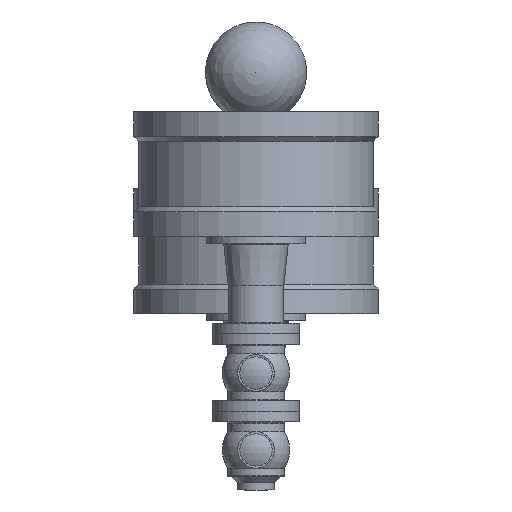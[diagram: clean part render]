
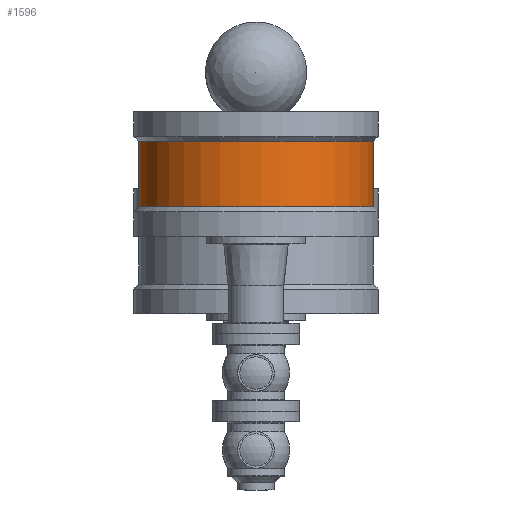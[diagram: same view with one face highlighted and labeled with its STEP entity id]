
A CAD part, front view. The second image highlights one B-rep face of the part: STEP entity #1596.
In plain terms, the highlighted cylindrical face has radius 167 mm (diameter 334 mm), a full revolution.
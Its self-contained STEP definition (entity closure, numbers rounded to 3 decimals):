
#220=LINE('',#2876,#263);
#263=VECTOR('',#2255,167.);
#304=CYLINDRICAL_SURFACE('',#1881,167.);
#354=FACE_OUTER_BOUND('',#455,.T.);
#455=EDGE_LOOP('',(#1195,#1196,#1197,#1198,#1199,#1200));
#593=CIRCLE('',#1879,167.);
#594=CIRCLE('',#1880,167.);
#595=CIRCLE('',#1882,167.);
#596=CIRCLE('',#1883,167.);
#759=VERTEX_POINT('',#2866);
#760=VERTEX_POINT('',#2867);
#761=VERTEX_POINT('',#2872);
#762=VERTEX_POINT('',#2873);
#931=EDGE_CURVE('',#759,#760,#593,.T.);
#932=EDGE_CURVE('',#760,#759,#594,.T.);
#934=EDGE_CURVE('',#761,#762,#595,.T.);
#935=EDGE_CURVE('',#762,#761,#596,.T.);
#936=EDGE_CURVE('',#762,#760,#220,.T.);
#1195=ORIENTED_EDGE('',*,*,#934,.F.);
#1196=ORIENTED_EDGE('',*,*,#935,.F.);
#1197=ORIENTED_EDGE('',*,*,#936,.T.);
#1198=ORIENTED_EDGE('',*,*,#932,.T.);
#1199=ORIENTED_EDGE('',*,*,#931,.T.);
#1200=ORIENTED_EDGE('',*,*,#936,.F.);
#1596=ADVANCED_FACE('',(#354),#304,.T.);
#1879=AXIS2_PLACEMENT_3D('',#2868,#2244,#2245);
#1880=AXIS2_PLACEMENT_3D('',#2869,#2246,#2247);
#1881=AXIS2_PLACEMENT_3D('',#2871,#2249,#2250);
#1882=AXIS2_PLACEMENT_3D('',#2874,#2251,#2252);
#1883=AXIS2_PLACEMENT_3D('',#2875,#2253,#2254);
#2244=DIRECTION('center_axis',(-1.,0.,0.));
#2245=DIRECTION('ref_axis',(0.,0.,1.));
#2246=DIRECTION('center_axis',(-1.,0.,0.));
#2247=DIRECTION('ref_axis',(0.,0.,1.));
#2249=DIRECTION('center_axis',(-1.,0.,0.));
#2250=DIRECTION('ref_axis',(0.,0.,1.));
#2251=DIRECTION('center_axis',(-1.,0.,0.));
#2252=DIRECTION('ref_axis',(0.,0.,1.));
#2253=DIRECTION('center_axis',(-1.,0.,0.));
#2254=DIRECTION('ref_axis',(0.,0.,1.));
#2255=DIRECTION('',(1.,0.,0.));
#2866=CARTESIAN_POINT('',(-45.5,0.,167.));
#2867=CARTESIAN_POINT('',(-45.5,0.,-167.));
#2868=CARTESIAN_POINT('Origin',(-45.5,0.,0.));
#2869=CARTESIAN_POINT('Origin',(-45.5,0.,0.));
#2871=CARTESIAN_POINT('Origin',(-92.,0.,0.));
#2872=CARTESIAN_POINT('',(-138.5,0.,167.));
#2873=CARTESIAN_POINT('',(-138.5,0.,-167.));
#2874=CARTESIAN_POINT('Origin',(-138.5,0.,0.));
#2875=CARTESIAN_POINT('Origin',(-138.5,0.,0.));
#2876=CARTESIAN_POINT('',(-92.,0.,-167.));
